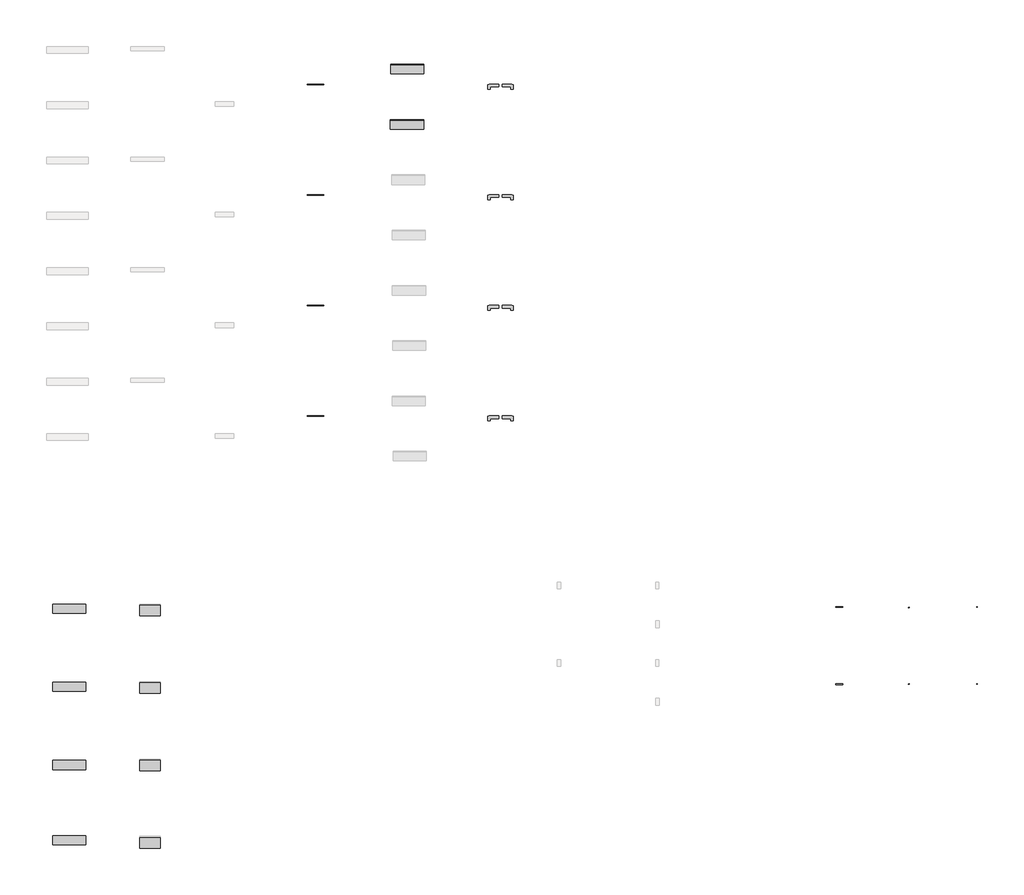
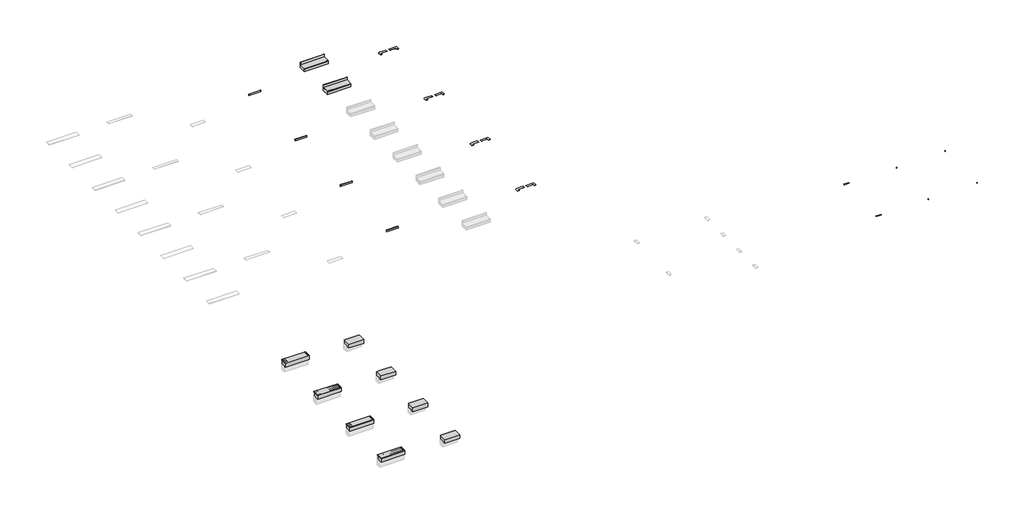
# One storey, part 2 of 2: 30 proxies, 2 stair flights.
"""IFC4 building model written with IfcOpenShell, lengths in millimetres."""

import ifcopenshell
import ifcopenshell.guid

model = None  # the IFC model being written
_history = None  # IfcOwnerHistory: only IFC2X3 demands one
_inside = {}  # id of a spatial element -> (the spatial element, [elements in it])
_under = {}  # id of a project, library or spatial element -> (it, [spatial elements below it])
_declared = {}  # id of a project -> (the project, [libraries it declares])
_typed = {}  # id of a type object -> (the type object, [elements of that type])
_made_of = {}  # id of a material, layer set ... -> (it, [elements and type objects made of it])


def new_model(schema):
    """Start an empty IFC model of exactly this schema.

    Asked for "IFC4X3", IfcOpenShell would pick the latest addendum, in which some entities
    have other attributes; the version numbers below select the first issue.
    IFC2X3 requires an IfcOwnerHistory on every rooted entity: one is made here for all.
    """
    global model, _history
    if schema == "IFC4X3":
        model = ifcopenshell.file(schema_version=(4, 3, 0, 0))
    else:
        model = ifcopenshell.file(schema=schema)
    _inside.clear()
    _under.clear()
    _declared.clear()
    _typed.clear()
    _made_of.clear()
    _history = None
    if model.schema == "IFC2X3":
        org = make("IfcOrganization", Name="unknown")
        user = make(
            "IfcPersonAndOrganization",
            ThePerson=make("IfcPerson", FamilyName="unknown"),
            TheOrganization=org,
        )
        app = make(
            "IfcApplication",
            ApplicationDeveloper=org,
            Version="unknown",
            ApplicationFullName="unknown",
            ApplicationIdentifier="unknown",
        )
        _history = make(
            "IfcOwnerHistory",
            OwningUser=user,
            OwningApplication=app,
            ChangeAction="ADDED",
            CreationDate=0,
        )
    return model


def make(cls, **values):
    """One entity of the class cls with the attributes given. An attribute that is None is left unset."""
    return model.create_entity(
        cls, **{name: value for name, value in values.items() if value is not None}
    )


def rooted(cls, **values):
    """An entity with a GlobalId (a new one), such as an element, a storey or a relation."""
    return make(cls, GlobalId=ifcopenshell.guid.new(), OwnerHistory=_history, **values)


def si_unit(unit_type, name, prefix=None):
    """IfcSIUnit, for example si_unit("LENGTHUNIT", "METRE", prefix="MILLI")."""
    return make("IfcSIUnit", UnitType=unit_type, Prefix=prefix, Name=name)


def assignment(units):
    """IfcUnitAssignment: the units of a project."""
    return None if units is None else make("IfcUnitAssignment", Units=units)


def point(xyz):
    """IfcCartesianPoint."""
    return None if xyz is None else make("IfcCartesianPoint", Coordinates=xyz)


def direction(xyz):
    """IfcDirection."""
    return None if xyz is None else make("IfcDirection", DirectionRatios=xyz)


def frame(location, z_axis=None, x_axis=None):
    """IfcAxis2Placement3D, a coordinate frame: its origin and axes. An axis left out is left unset."""
    return make(
        "IfcAxis2Placement3D",
        Location=point(location),
        Axis=direction(z_axis),
        RefDirection=direction(x_axis),
    )


def frame_2d(location, x_axis=None):
    """IfcAxis2Placement2D, a coordinate frame in the plane: its origin and x axis."""
    return make(
        "IfcAxis2Placement2D", Location=point(location), RefDirection=direction(x_axis)
    )


def origin():
    """The frame at (0, 0, 0) with its axes left unset."""
    return frame((0.0, 0.0, 0.0))


def origin_with_axes():
    """The frame at (0, 0, 0) with the z axis (0, 0, 1) and the x axis (1, 0, 0) written out."""
    return frame((0.0, 0.0, 0.0), z_axis=(0.0, 0.0, 1.0), x_axis=(1.0, 0.0, 0.0))


def place(relative_to, where):
    """IfcLocalPlacement: puts the frame where relative to a parent placement (None: the world)."""
    return make(
        "IfcLocalPlacement", PlacementRelTo=relative_to, RelativePlacement=where
    )


def context(
    kind, dimensions, precision=None, world=None, true_north=None, identifier=None
):
    """IfcGeometricRepresentationContext, for example the 3D "Model" context."""
    return make(
        "IfcGeometricRepresentationContext",
        ContextIdentifier=identifier,
        ContextType=kind,
        CoordinateSpaceDimension=dimensions,
        Precision=precision,
        WorldCoordinateSystem=world,
        TrueNorth=true_north,
    )


def project(units=None, contexts=None):
    """IfcProject with its units and contexts."""
    return rooted(
        "IfcProject",
        Name="project",
        RepresentationContexts=contexts,
        UnitsInContext=assignment(units),
    )


def spatial(cls, under=None, at=None, **own):
    """A site, building, storey or space (cls), placed at a placement, below another one or the project."""
    s = rooted(cls, ObjectPlacement=at, **own)
    if under is not None:
        _under.setdefault(under.id(), (under, []))[1].append(s)
    return s


def polyline(points):
    """IfcPolyline through the points."""
    return make("IfcPolyline", Points=[point(p) for p in points])


def circle_curve(where, radius):
    """IfcCircle in the frame where."""
    return make("IfcCircle", Position=where, Radius=radius)


def ellipse_curve(where, semi_axis1, semi_axis2):
    """IfcEllipse in the frame where."""
    return make(
        "IfcEllipse", Position=where, SemiAxis1=semi_axis1, SemiAxis2=semi_axis2
    )


def trimmed(basis, trim1, trim2, sense, master):
    """IfcTrimmedCurve: the piece of a basis curve between two trims."""
    return make(
        "IfcTrimmedCurve",
        BasisCurve=basis,
        Trim1=trim1,
        Trim2=trim2,
        SenseAgreement=sense,
        MasterRepresentation=master,
    )


def segment(curve, same_sense, transition):
    """IfcCompositeCurveSegment."""
    return make(
        "IfcCompositeCurveSegment",
        Transition=transition,
        SameSense=same_sense,
        ParentCurve=curve,
    )


def composite_curve(segments, self_intersect=None):
    """IfcCompositeCurve: segments joined end to end."""
    return make("IfcCompositeCurve", Segments=segments, SelfIntersect=self_intersect)


def outline(outer, holes=None, kind="AREA"):
    """IfcArbitraryClosedProfileDef: a profile drawn as a closed curve; with holes, ...WithVoids."""
    if holes is None:
        return make("IfcArbitraryClosedProfileDef", ProfileType=kind, OuterCurve=outer)
    return make(
        "IfcArbitraryProfileDefWithVoids",
        ProfileType=kind,
        OuterCurve=outer,
        InnerCurves=holes,
    )


def extrude(swept, where, along, depth):
    """IfcExtrudedAreaSolid: the profile swept, set in the frame where, extruded along a direction by depth."""
    return make(
        "IfcExtrudedAreaSolid",
        SweptArea=swept,
        Position=where,
        ExtrudedDirection=direction(along),
        Depth=depth,
    )


def faces_of(points, faces, orient=None, outer=None):
    """IfcFace entities. A face is a list of loops; a loop is a list of indices into points, from 0.

    orient and outer hold one flag for each loop. By default every Orientation is true, the
    first loop of a face is its IfcFaceOuterBound and the others are IfcFaceBound.
    """
    made = []
    for i, loops in enumerate(faces):
        bounds = []
        for j, loop in enumerate(loops):
            is_outer = j == 0 if outer is None else outer[i][j]
            bounds.append(
                make(
                    "IfcFaceOuterBound" if is_outer else "IfcFaceBound",
                    Bound=make("IfcPolyLoop", Polygon=[points[k] for k in loop]),
                    Orientation=True if orient is None else orient[i][j],
                )
            )
        made.append(make("IfcFace", Bounds=bounds))
    return made


def faceted_brep(points, faces, orient=None, outer=None, voids=None):
    """IfcFacetedBrep: a solid bounded by flat faces; with voids (closed shells), ...WithVoids."""
    shared = [point(p) for p in points]
    hull = make("IfcClosedShell", CfsFaces=faces_of(shared, faces, orient, outer))
    if voids is None:
        return make("IfcFacetedBrep", Outer=hull)
    return make(
        "IfcFacetedBrepWithVoids",
        Outer=hull,
        Voids=[
            make(cls, CfsFaces=faces_of(shared, fs, o, b)) for cls, fs, o, b in voids
        ],
    )


def shape(context_of_items, identifier, shape_type, items):
    """IfcShapeRepresentation: the items that make up one representation, for example the "Body"."""
    return make(
        "IfcShapeRepresentation",
        ContextOfItems=context_of_items,
        RepresentationIdentifier=identifier,
        RepresentationType=shape_type,
        Items=items,
    )


def source(mapping_origin, context_of_items, identifier, shape_type, items):
    """IfcRepresentationMap: a shape defined once, which mapped items show again and again."""
    return make(
        "IfcRepresentationMap",
        MappingOrigin=mapping_origin,
        MappedRepresentation=shape(context_of_items, identifier, shape_type, items),
    )


def transform(
    local_origin,
    x_axis=None,
    y_axis=None,
    z_axis=None,
    scale=None,
    scale2=None,
    scale3=None,
    uniform=True,
):
    """IfcCartesianTransformationOperator3D, or its non-uniform kind. x_axis, y_axis, z_axis: its Axis1, 2, 3."""
    if uniform:
        return make(
            "IfcCartesianTransformationOperator3D",
            Axis1=direction(x_axis),
            Axis2=direction(y_axis),
            LocalOrigin=point(local_origin),
            Scale=scale,
            Axis3=direction(z_axis),
        )
    return make(
        "IfcCartesianTransformationOperator3DnonUniform",
        Axis1=direction(x_axis),
        Axis2=direction(y_axis),
        LocalOrigin=point(local_origin),
        Scale=scale,
        Axis3=direction(z_axis),
        Scale2=scale2,
        Scale3=scale3,
    )


def mapped(mapping_source, mapping_target):
    """IfcMappedItem: shows the shape of a source again, moved by a transform."""
    return make(
        "IfcMappedItem", MappingSource=mapping_source, MappingTarget=mapping_target
    )


def made_of(thing, what):
    """Note that an element or type object is made of a material, layer set ...; save() writes the relation."""
    if what is not None:
        _made_of.setdefault(what.id(), (what, []))[1].append(thing)
    return thing


def element(
    cls,
    number,
    at=None,
    inside=None,
    cuts=None,
    type_object=None,
    material=None,
    context=None,
    identifier="Body",
    shape_type=None,
    held_by="IfcProductDefinitionShape",
    body=None,
    shapes=None,
    **own,
):
    """One element of the class cls, such as IfcWall. Its Tag is "e" and its number.

    at: its placement. inside: the storey or other place that contains it. cuts: it is an
    opening in that element (IfcRelVoidsElement). A single representation is given by context,
    identifier, shape_type and body (its items); several are given by shapes. held_by: the class
    of the entity that holds the representations. save() writes the other relations.
    """
    e = rooted(cls, Tag="e%d" % number, ObjectPlacement=at, **own)
    if body is not None:
        shapes = [shape(context, identifier, shape_type, body)]
    if shapes is not None:
        e.Representation = make(held_by, Representations=shapes)
    if inside is not None:
        _inside.setdefault(inside.id(), (inside, []))[1].append(e)
    if cuts is not None:
        rooted(
            "IfcRelVoidsElement", RelatingBuildingElement=cuts, RelatedOpeningElement=e
        )
    if type_object is not None:
        _typed.setdefault(type_object.id(), (type_object, []))[1].append(e)
    return made_of(e, material)


def aggregate(whole, parts):
    """IfcRelAggregates: a whole, such as a stair, and the parts it consists of."""
    return rooted("IfcRelAggregates", RelatingObject=whole, RelatedObjects=parts)


def save(model, path):
    """Write the relations noted so far, then the file.

    IfcRelAggregates (storeys below a building ...), IfcRelContainedInSpatialStructure (elements
    in a storey), IfcRelDefinesByType, IfcRelAssociatesMaterial and IfcRelDeclares: one each for
    every whole, place, type object, material and project.
    """
    for whole, parts in _under.values():
        aggregate(whole, parts)
    for where, things in _inside.values():
        rooted(
            "IfcRelContainedInSpatialStructure",
            RelatedElements=things,
            RelatingStructure=where,
        )
    for kind, things in _typed.values():
        rooted("IfcRelDefinesByType", RelatedObjects=things, RelatingType=kind)
    for what, things in _made_of.values():
        rooted("IfcRelAssociatesMaterial", RelatedObjects=things, RelatingMaterial=what)
    for by, libraries in _declared.values():
        rooted("IfcRelDeclares", RelatingContext=by, RelatedDefinitions=libraries)
    model.write(path)


def plane_surface(at):
    """IfcPlane: the flat surface through the origin of the frame at, square to its z axis."""
    return make("IfcPlane", Position=at)


def revolved_surface(curve, axis_point, axis_direction):
    """IfcSurfaceOfRevolution: the curve turned about the line through axis_point along axis_direction."""
    return make(
        "IfcSurfaceOfRevolution",
        SweptCurve=make("IfcArbitraryOpenProfileDef", ProfileType="CURVE", Curve=curve),
        AxisPosition=make("IfcAxis1Placement", Location=point(axis_point), Axis=direction(axis_direction)),
    )


def advanced_brep(points, edges, surfaces, faces):
    """IfcAdvancedBrep: a solid bounded by faces that lie on surfaces and meet in shared edges.

    An edge is (start, end): straight between two places in points (the first is 0);
    or (start, end, curve); or (start, end, curve, False) where it runs against its curve.
    A face is (place in surfaces, loops), or (place, loops, False) where it looks against
    its surface's normal. A loop lists edges by number (the first is 1), with a minus sign
    where the edge is run from its end to its start. The first loop is the outer one.
    """
    corners = [point(p) for p in points]
    vertices = [make("IfcVertexPoint", VertexGeometry=c) for c in corners]
    made = []
    for start, end, *more in edges:
        made.append(
            make(
                "IfcEdgeCurve",
                EdgeStart=vertices[start],
                EdgeEnd=vertices[end],
                EdgeGeometry=more[0] if more else make("IfcPolyline", Points=[corners[start], corners[end]]),
                SameSense=more[1] if len(more) > 1 else True,
            )
        )
    hull = []
    for where, loops, *sense in faces:
        bounds = []
        for j, loop in enumerate(loops):
            ring = [make("IfcOrientedEdge", EdgeElement=made[abs(k) - 1], Orientation=k > 0) for k in loop]
            bounds.append(
                make(
                    "IfcFaceOuterBound" if j == 0 else "IfcFaceBound",
                    Bound=make("IfcEdgeLoop", EdgeList=ring),
                    Orientation=True,
                )
            )
        hull.append(make("IfcAdvancedFace", Bounds=bounds, FaceSurface=surfaces[where], SameSense=sense[0] if sense else True))
    return make("IfcAdvancedBrep", Outer=make("IfcClosedShell", CfsFaces=hull))


def generic_models_5bab8272(model_context):
    return source(origin(), model_context, "Body", "SweptSolid", [
        extrude(outline(composite_curve([segment(polyline([(300.0, 0.0), (0.0, 0.0), (0.0, -80.0), (-100.0, -80.0), (-100.0, 42.0)]), True, "CONTINUOUS"), segment(trimmed(circle_curve(frame_2d((-42.0, 42.0)), 58.0), [point((-100.0, 42.0))], [point((-42.0, 100.0))], False, "CARTESIAN"), True, "CONTINUOUS"), segment(polyline([(-42.0, 100.0), (300.0, 100.0), (300.0, 0.0)]), True, "CONTINUOUS")], self_intersect=False)), origin_with_axes(), (0.0, 0.0, 1.0), 10.0),
    ])


def generic_models_6290b49e(model_context):
    return source(origin(), model_context, "Body", "SweptSolid", [
        extrude(outline(composite_curve([segment(polyline([(300.0, 0.0), (300.0, -100.0), (-42.0, -100.0)]), True, "CONTINUOUS"), segment(trimmed(circle_curve(frame_2d((-42.0, -42.0)), 58.0), [point((-42.0, -100.0))], [point((-100.0, -42.0))], False, "CARTESIAN"), True, "CONTINUOUS"), segment(polyline([(-100.0, -42.0), (-100.0, 80.0), (0.0, 80.0), (0.0, 0.0), (300.0, 0.0)]), True, "CONTINUOUS")], self_intersect=False)), origin_with_axes(), (0.0, 0.0, 1.0), 10.0),
    ])


def generic_models_b0f7cce5(model_context):
    return source(origin(), model_context, "Body", "AdvancedBrep", [
        advanced_brep(
        [(0.0, -23.9, 23.9), (23.9, 0.0, 23.9), (23.9, 6.4, 23.9), (-6.4, -23.9, 23.9), (23.9, -23.9, -6.4), (23.9, -23.9, 0.0)],
        [
            (0, 1, circle_curve(frame((23.9, -23.9, 23.9), z_axis=(0.0, 0.0, -1.0), x_axis=(0.0, -1.0, 0.0)), 23.9)),
            (1, 2),
            (2, 3, circle_curve(frame((23.9, -23.9, 23.9), z_axis=(0.0, 0.0, 1.0), x_axis=(0.0, -1.0, 0.0)), 30.3)),
            (3, 0),
            (3, 4, circle_curve(frame((23.9, -23.9, 23.9), z_axis=(0.0, -1.0, 0.0), x_axis=(0.0, 0.0, 1.0)), 30.3)),
            (4, 5),
            (5, 0, circle_curve(frame((23.9, -23.9, 23.9), z_axis=(0.0, 1.0, 0.0), x_axis=(0.0, 0.0, 1.0)), 23.9)),
            (5, 1, circle_curve(frame((23.9, -23.9, 23.9), z_axis=(1.0, 0.0, 0.0), x_axis=(0.0, 1.0, 0.0)), 23.9)),
            (4, 2, circle_curve(frame((23.9, -23.9, 23.9), z_axis=(1.0, 0.0, 0.0), x_axis=(0.0, 1.0, 0.0)), 30.3)),
        ],
        [
            plane_surface(frame((-0.3, -23.9, 23.9), z_axis=(0.0, 0.0, 1.0), x_axis=(0.0, 1.0, 0.0))),
            plane_surface(frame((-0.3, -23.9, 23.9), z_axis=(0.0, -1.0, 0.0), x_axis=(0.0, 0.0, -1.0))),
            revolved_surface(trimmed(ellipse_curve(frame((23.9, -23.9, 23.9), z_axis=(0.0, 0.0, -1.0), x_axis=(0.0, -1.0, 0.0)), 23.9, 23.9), [point((0.0, -23.9, 23.9))], [point((23.9, 0.0, 23.9))], True, "CARTESIAN"), (-0.3, -23.9, 23.9), (-1.0, 0.0, 0.0)),
            plane_surface(frame((23.9, -23.9, 23.9), z_axis=(1.0, 0.0, 0.0), x_axis=(0.0, 1.0, 0.0))),
            revolved_surface(trimmed(ellipse_curve(frame((23.9, -23.9, 23.9), z_axis=(0.0, 0.0, 1.0), x_axis=(0.0, -1.0, 0.0)), 30.3, 30.3), [point((23.9, 6.4, 23.9))], [point((-6.4, -23.9, 23.9))], True, "CARTESIAN"), (-0.3, -23.9, 23.9), (-1.0, 0.0, 0.0)),
        ],
        [
            (0, [[1, 2, 3, 4]]),
            (1, [[5, 6, 7, -4]]),
            (2, [[8, -1, -7]]),
            (3, [[9, -2, -8, -6]]),
            (4, [[-3, -9, -5]]),
        ],
    ),
    ])


def generic_models_d871d5da(model_context):
    return source(origin(), model_context, "Body", "AdvancedBrep", [
        advanced_brep(
        [(-23.9, 6.4, -23.9), (-6.4, 23.9, -23.9), (0.0, 23.9, -23.9), (-23.9, 0.0, -23.9), (-23.9, 23.9, 0.0), (-23.9, 23.9, -6.4)],
        [
            (0, 1, circle_curve(frame((-23.9, 23.9, -23.9), z_axis=(0.0, 0.0, 1.0), x_axis=(0.0, 1.0, 0.0)), 17.5)),
            (1, 2),
            (2, 3, circle_curve(frame((-23.9, 23.9, -23.9), z_axis=(0.0, 0.0, -1.0), x_axis=(0.0, 1.0, 0.0)), 23.9)),
            (3, 0),
            (3, 4, circle_curve(frame((-23.9, 23.9, -23.9), z_axis=(-1.0, 0.0, 0.0), x_axis=(0.0, 1.0, 0.0)), 23.9)),
            (4, 5),
            (5, 0, circle_curve(frame((-23.9, 23.9, -23.9), z_axis=(1.0, 0.0, 0.0), x_axis=(0.0, 1.0, 0.0)), 17.5)),
            (2, 4, circle_curve(frame((-23.9, 23.9, -23.9), z_axis=(0.0, -1.0, 0.0), x_axis=(1.0, 0.0, 0.0)), 23.9)),
            (1, 5, circle_curve(frame((-23.9, 23.9, -23.9), z_axis=(0.0, -1.0, 0.0), x_axis=(1.0, 0.0, 0.0)), 17.5)),
        ],
        [
            plane_surface(frame((-23.9, -10.6, -23.9), z_axis=(0.0, 0.0, -1.0), x_axis=(1.0, 0.0, 0.0))),
            plane_surface(frame((-23.9, -10.6, -23.9), z_axis=(-1.0, 0.0, 0.0), x_axis=(0.0, 0.0, 1.0))),
            revolved_surface(trimmed(ellipse_curve(frame((-23.9, 23.9, -23.9), z_axis=(0.0, 0.0, 1.0), x_axis=(0.0, 1.0, 0.0)), 23.9, 23.9), [point((-23.9, 0.0, -23.9))], [point((0.0, 23.9, -23.9))], True, "CARTESIAN"), (-23.9, -10.6, -23.9), (0.0, 1.0, 0.0)),
            plane_surface(frame((-23.9, 23.9, -23.9), z_axis=(0.0, 1.0, 0.0), x_axis=(1.0, 0.0, 0.0))),
            revolved_surface(trimmed(ellipse_curve(frame((-23.9, 23.9, -23.9), z_axis=(0.0, 0.0, -1.0), x_axis=(0.0, 1.0, 0.0)), 17.5, 17.5), [point((-6.4, 23.9, -23.9))], [point((-23.9, 6.4, -23.9))], True, "CARTESIAN"), (-23.9, -10.6, -23.9), (0.0, 1.0, 0.0)),
        ],
        [
            (0, [[1, 2, 3, 4]]),
            (1, [[5, 6, 7, -4]]),
            (2, [[-3, 8, -5]]),
            (3, [[-8, -2, 9, -6]]),
            (4, [[-9, -1, -7]]),
        ],
    ),
    ])


def generic_models_11448745(model_context):
    return source(origin(), model_context, "Body", "SweptSolid", [
        extrude(outline(composite_curve([segment(trimmed(circle_curve(frame_2d((23.9, -23.9)), 23.9), [point((0.0, -23.9))], [point((23.9, 0.0))], False, "CARTESIAN"), True, "CONTINUOUS"), segment(polyline([(23.9, 0.0), (23.9, -6.4)]), True, "CONTINUOUS"), segment(trimmed(circle_curve(frame_2d((23.9, -23.9)), 17.5), [point((23.9, -6.4))], [point((6.4, -23.9))], True, "CARTESIAN"), True, "CONTINUOUS"), segment(polyline([(6.4, -23.9), (0.0, -23.9)]), True, "CONTINUOUS")], self_intersect=False)), frame((0.0, 0.0, 0.0), z_axis=(1.0, 0.0, 0.0), x_axis=(0.0, 1.0, 0.0)), (0.0, 0.0, 1.0), 250.0),
    ])


model = new_model("IFC4")

# Units and contexts
model_context = context("Model", 3, world=origin())
ifc_project = project(units=[si_unit("LENGTHUNIT", "METRE", prefix="MILLI")], contexts=[model_context])

# Site, building, storey
site = spatial("IfcSite", under=ifc_project)
building = spatial("IfcBuilding", under=site)
storey = spatial("IfcBuildingStorey", under=building, Name="EXAGRES_Serie YOHO_Catálogo", Elevation=5000.0)

# Proxies
placement = place(None, origin())
element("IfcBuildingElementProxy", 1, Name="Exagres_Yoho_Maple_Rodapié_9x60", ObjectType="Exagres_Yoho_Maple_Rodapié_9x60", at=placement, inside=storey, context=model_context, shape_type="SweptSolid", body=[
    extrude(outline(polyline([(-576.1098151, 5090.0), (-576.1098151, 5000.0), (-591.1098151, 5000.0), (-591.1098151, 5085.0), (-586.1098151, 5090.0), (-576.1098151, 5090.0)])), frame((8193.632671, 0.0, 0.0), z_axis=(1.0, 0.0, 0.0), x_axis=(0.0, 1.0, 0.0)), (0.0, 0.0, 1.0), 600.0),
])
element("IfcBuildingElementProxy", 2, Name="Wall Sweeps", at=placement, inside=storey, context=model_context, shape_type="SweptSolid", body=[
    extrude(outline(polyline([(-19403.852278, 5500.0), (-19403.852278, 5508.0), (-19402.852278, 5508.0), (-19402.852278, 5514.0), (-19403.852278, 5514.0), (-19403.852278, 5521.0), (-19410.852278, 5521.0), (-19410.852278, 5522.0), (-19414.852278, 5522.0), (-19414.852278, 5521.0), (-19420.852278, 5521.0), (-19420.852278, 5522.0), (-19424.852278, 5522.0), (-19424.852278, 5521.0), (-19430.852278, 5521.0), (-19430.852278, 5522.0), (-19434.852278, 5522.0), (-19434.852278, 5521.0), (-19440.852278, 5521.0), (-19440.852278, 5522.0), (-19444.852278, 5522.0), (-19444.852278, 5521.0), (-19450.852278, 5521.0), (-19450.852278, 5522.0), (-19454.852278, 5522.0), (-19454.852278, 5521.0), (-19460.852278, 5521.0), (-19460.852278, 5522.0), (-19464.852278, 5522.0), (-19464.852278, 5521.0), (-19470.852278, 5521.0), (-19470.852278, 5522.0), (-19474.852278, 5522.0), (-19474.852278, 5521.0), (-19480.852278, 5521.0), (-19480.852278, 5522.0), (-19484.852278, 5522.0), (-19484.852278, 5521.0), (-19490.852278, 5521.0), (-19490.852278, 5522.0), (-19494.852278, 5522.0), (-19494.852278, 5521.0), (-19500.852278, 5521.0), (-19500.852278, 5522.0), (-19504.852278, 5522.0), (-19504.852278, 5521.0), (-19510.852278, 5521.0), (-19510.852278, 5522.0), (-19514.852278, 5522.0), (-19514.852278, 5521.0), (-19520.852278, 5521.0), (-19520.852278, 5522.0), (-19524.852278, 5522.0), (-19524.852278, 5521.0), (-19530.852278, 5521.0), (-19530.852278, 5522.0), (-19534.852278, 5522.0), (-19534.852278, 5521.0), (-19540.852278, 5521.0), (-19540.852278, 5522.0), (-19544.852278, 5522.0), (-19544.852278, 5521.0), (-19550.852278, 5521.0), (-19550.852278, 5522.0), (-19554.852278, 5522.0), (-19554.852278, 5521.0), (-19560.852278, 5521.0), (-19560.852278, 5522.0), (-19564.852278, 5522.0), (-19564.852278, 5521.0), (-19570.852278, 5521.0), (-19570.852278, 5522.0), (-19574.852278, 5522.0), (-19574.852278, 5521.0), (-19580.852278, 5521.0), (-19580.852278, 5522.0), (-19584.852278, 5522.0), (-19584.852278, 5521.0), (-19590.852278, 5521.0), (-19590.852278, 5522.0), (-19594.852278, 5522.0), (-19594.852278, 5521.0), (-19600.852278, 5521.0), (-19600.852278, 5522.0), (-19604.852278, 5522.0), (-19604.852278, 5521.0), (-19610.852278, 5521.0), (-19610.852278, 5522.0), (-19614.852278, 5522.0), (-19614.852278, 5521.0), (-19620.852278, 5521.0), (-19620.852278, 5522.0), (-19624.852278, 5522.0), (-19624.852278, 5521.0), (-19630.852278, 5521.0), (-19630.852278, 5522.0), (-19634.852278, 5522.0), (-19634.852278, 5521.0), (-19640.852278, 5521.0), (-19640.852278, 5522.0), (-19644.852278, 5522.0), (-19644.852278, 5521.0), (-19650.852278, 5521.0), (-19650.852278, 5522.0), (-19654.852278, 5522.0), (-19654.852278, 5521.0), (-19660.852278, 5521.0), (-19660.852278, 5522.0), (-19664.852278, 5522.0), (-19664.852278, 5521.0), (-19670.852278, 5521.0), (-19670.852278, 5522.0), (-19674.852278, 5522.0), (-19674.852278, 5521.0), (-19680.852278, 5521.0), (-19680.852278, 5522.0), (-19684.852278, 5522.0), (-19684.852278, 5521.0), (-19690.852278, 5521.0), (-19690.852278, 5522.0), (-19694.852278, 5522.0), (-19694.852278, 5521.0), (-19700.852278, 5521.0), (-19700.852278, 5522.0), (-19704.852278, 5522.0), (-19704.852278, 5521.0), (-19710.852278, 5521.0), (-19710.852278, 5522.0), (-19714.852278, 5522.0), (-19714.852278, 5521.0), (-19720.852278, 5521.0), (-19720.852278, 5533.0), (-19390.852278, 5533.0), (-19390.852278, 5500.0), (-19403.852278, 5500.0)])), frame((-1012.155725, 0.0, 0.0), z_axis=(1.0, 0.0, 0.0), x_axis=(0.0, 1.0, 0.0)), (0.0, 0.0, 1.0), 1202.0),
])
element("IfcBuildingElementProxy", 3, Name="Wall Sweeps", at=placement, inside=storey, context=model_context, shape_type="Brep", body=[
    faceted_brep([(-1012.155725, -19710.852278, 5318.74), (-1012.155725, -19710.852278, 5518.74), (-1012.155725, -19405.852278, 5518.74), (-1012.155725, -19405.852278, 5500.0), (-1012.155725, -19405.852278, 5318.74), (-1012.155725, -19615.852278, 5318.74), (189.844275, -19710.852278, 5318.74), (189.844275, -19615.852278, 5318.74), (189.844275, -19405.852278, 5318.74), (189.844275, -19405.852278, 5500.0), (189.844275, -19405.852278, 5518.74), (189.844275, -19710.852278, 5518.74)], [[[0, 1, 2, 3, 4, 5]], [[6, 7, 8, 9, 10, 11]], [[0, 5, 4, 8, 7, 6]], [[4, 3, 2, 10, 9, 8]], [[2, 1, 11, 10]], [[1, 0, 6, 11]]]),
])
element("IfcBuildingElementProxy", 4, Name="Wall Sweeps", at=placement, inside=storey, context=model_context, shape_type="Brep", body=[
    faceted_brep([(2137.844275, -19815.852278, 5300.0), (2137.844275, -19815.852278, 5500.0), (2137.844275, -19415.852278, 5500.0), (2137.844275, -19415.852278, 5300.0), (2137.844275, -19615.852278, 5300.0), (2887.844275, -19815.852278, 5300.0), (2887.844275, -19615.852278, 5300.0), (2887.844275, -19415.852278, 5300.0), (2887.844275, -19415.852278, 5500.0), (2887.844275, -19815.852278, 5500.0)], [[[0, 1, 2, 3, 4]], [[5, 6, 7, 8, 9]], [[0, 4, 3, 7, 6, 5]], [[3, 2, 8, 7]], [[2, 1, 9, 8]], [[1, 0, 5, 9]]]),
])
element("IfcBuildingElementProxy", 5, Name="Wall Sweeps", at=placement, inside=storey, context=model_context, shape_type="SweptSolid", body=[
    extrude(outline(polyline([(-22228.852278, 5500.0), (-22228.852278, 5508.0), (-22227.852278, 5508.0), (-22227.852278, 5514.0), (-22228.852278, 5514.0), (-22228.852278, 5521.0), (-22235.852278, 5521.0), (-22235.852278, 5522.0), (-22239.852278, 5522.0), (-22239.852278, 5521.0), (-22245.852278, 5521.0), (-22245.852278, 5522.0), (-22249.852278, 5522.0), (-22249.852278, 5521.0), (-22255.852278, 5521.0), (-22255.852278, 5522.0), (-22259.852278, 5522.0), (-22259.852278, 5521.0), (-22265.852278, 5521.0), (-22265.852278, 5522.0), (-22269.852278, 5522.0), (-22269.852278, 5521.0), (-22275.852278, 5521.0), (-22275.852278, 5522.0), (-22279.852278, 5522.0), (-22279.852278, 5521.0), (-22285.852278, 5521.0), (-22285.852278, 5522.0), (-22289.852278, 5522.0), (-22289.852278, 5521.0), (-22295.852278, 5521.0), (-22295.852278, 5522.0), (-22299.852278, 5522.0), (-22299.852278, 5521.0), (-22305.852278, 5521.0), (-22305.852278, 5522.0), (-22309.852278, 5522.0), (-22309.852278, 5521.0), (-22315.852278, 5521.0), (-22315.852278, 5522.0), (-22319.852278, 5522.0), (-22319.852278, 5521.0), (-22325.852278, 5521.0), (-22325.852278, 5522.0), (-22329.852278, 5522.0), (-22329.852278, 5521.0), (-22335.852278, 5521.0), (-22335.852278, 5522.0), (-22339.852278, 5522.0), (-22339.852278, 5521.0), (-22345.852278, 5521.0), (-22345.852278, 5522.0), (-22349.852278, 5522.0), (-22349.852278, 5521.0), (-22355.852278, 5521.0), (-22355.852278, 5522.0), (-22359.852278, 5522.0), (-22359.852278, 5521.0), (-22365.852278, 5521.0), (-22365.852278, 5522.0), (-22369.852278, 5522.0), (-22369.852278, 5521.0), (-22375.852278, 5521.0), (-22375.852278, 5522.0), (-22379.852278, 5522.0), (-22379.852278, 5521.0), (-22385.852278, 5521.0), (-22385.852278, 5522.0), (-22389.852278, 5522.0), (-22389.852278, 5521.0), (-22395.852278, 5521.0), (-22395.852278, 5522.0), (-22399.852278, 5522.0), (-22399.852278, 5521.0), (-22405.852278, 5521.0), (-22405.852278, 5522.0), (-22409.852278, 5522.0), (-22409.852278, 5521.0), (-22415.852278, 5521.0), (-22415.852278, 5522.0), (-22419.852278, 5522.0), (-22419.852278, 5521.0), (-22425.852278, 5521.0), (-22425.852278, 5522.0), (-22429.852278, 5522.0), (-22429.852278, 5521.0), (-22435.852278, 5521.0), (-22435.852278, 5522.0), (-22439.852278, 5522.0), (-22439.852278, 5521.0), (-22445.852278, 5521.0), (-22445.852278, 5522.0), (-22449.852278, 5522.0), (-22449.852278, 5521.0), (-22455.852278, 5521.0), (-22455.852278, 5522.0), (-22459.852278, 5522.0), (-22459.852278, 5521.0), (-22465.852278, 5521.0), (-22465.852278, 5522.0), (-22469.852278, 5522.0), (-22469.852278, 5521.0), (-22475.852278, 5521.0), (-22475.852278, 5522.0), (-22479.852278, 5522.0), (-22479.852278, 5521.0), (-22485.852278, 5521.0), (-22485.852278, 5522.0), (-22489.852278, 5522.0), (-22489.852278, 5521.0), (-22495.852278, 5521.0), (-22495.852278, 5522.0), (-22499.852278, 5522.0), (-22499.852278, 5521.0), (-22505.852278, 5521.0), (-22505.852278, 5522.0), (-22509.852278, 5522.0), (-22509.852278, 5521.0), (-22515.852278, 5521.0), (-22515.852278, 5522.0), (-22519.852278, 5522.0), (-22519.852278, 5521.0), (-22525.852278, 5521.0), (-22525.852278, 5522.0), (-22529.852278, 5522.0), (-22529.852278, 5521.0), (-22535.852278, 5521.0), (-22535.852278, 5522.0), (-22539.852278, 5522.0), (-22539.852278, 5521.0), (-22545.852278, 5521.0), (-22545.852278, 5533.0), (-22215.852278, 5533.0), (-22215.852278, 5500.0), (-22228.852278, 5500.0)])), frame((-1012.155725, 0.0, 0.0), z_axis=(1.0, 0.0, 0.0), x_axis=(0.0, 1.0, 0.0)), (0.0, 0.0, 1.0), 1202.0),
])
element("IfcBuildingElementProxy", 6, Name="Wall Sweeps", at=placement, inside=storey, context=model_context, shape_type="Brep", body=[
    faceted_brep([(-1012.155725, -22535.852278, 5318.74), (-1012.155725, -22535.852278, 5518.74), (-1012.155725, -22230.852278, 5518.74), (-1012.155725, -22230.852278, 5500.0), (-1012.155725, -22230.852278, 5318.74), (-1012.155725, -22440.852278, 5318.74), (189.844275, -22535.852278, 5318.74), (189.844275, -22440.852278, 5318.74), (189.844275, -22230.852278, 5318.74), (189.844275, -22230.852278, 5500.0), (189.844275, -22230.852278, 5518.74), (189.844275, -22535.852278, 5518.74)], [[[0, 1, 2, 3, 4, 5]], [[6, 7, 8, 9, 10, 11]], [[0, 5, 4, 8, 7, 6]], [[4, 3, 2, 10, 9, 8]], [[2, 1, 11, 10]], [[1, 0, 6, 11]]]),
])
element("IfcBuildingElementProxy", 7, Name="Wall Sweeps", at=placement, inside=storey, context=model_context, shape_type="Brep", body=[
    faceted_brep([(2137.844275, -22615.852278, 5300.0), (2137.844275, -22615.852278, 5500.0), (2137.844275, -22215.852278, 5500.0), (2137.844275, -22215.852278, 5300.0), (2137.844275, -22415.852278, 5300.0), (2887.844275, -22615.852278, 5300.0), (2887.844275, -22415.852278, 5300.0), (2887.844275, -22215.852278, 5300.0), (2887.844275, -22215.852278, 5500.0), (2887.844275, -22615.852278, 5500.0)], [[[0, 1, 2, 3, 4]], [[5, 6, 7, 8, 9]], [[0, 4, 3, 7, 6, 5]], [[3, 2, 8, 7]], [[2, 1, 9, 8]], [[1, 0, 5, 9]]]),
])
element("IfcBuildingElementProxy", 8, Name="Wall Sweeps", at=placement, inside=storey, context=model_context, shape_type="SweptSolid", body=[
    extrude(outline(polyline([(-25053.852278, 5500.0), (-25053.852278, 5508.0), (-25052.852278, 5508.0), (-25052.852278, 5514.0), (-25053.852278, 5514.0), (-25053.852278, 5521.0), (-25060.852278, 5521.0), (-25060.852278, 5522.0), (-25064.852278, 5522.0), (-25064.852278, 5521.0), (-25070.852278, 5521.0), (-25070.852278, 5522.0), (-25074.852278, 5522.0), (-25074.852278, 5521.0), (-25080.852278, 5521.0), (-25080.852278, 5522.0), (-25084.852278, 5522.0), (-25084.852278, 5521.0), (-25090.852278, 5521.0), (-25090.852278, 5522.0), (-25094.852278, 5522.0), (-25094.852278, 5521.0), (-25100.852278, 5521.0), (-25100.852278, 5522.0), (-25104.852278, 5522.0), (-25104.852278, 5521.0), (-25110.852278, 5521.0), (-25110.852278, 5522.0), (-25114.852278, 5522.0), (-25114.852278, 5521.0), (-25120.852278, 5521.0), (-25120.852278, 5522.0), (-25124.852278, 5522.0), (-25124.852278, 5521.0), (-25130.852278, 5521.0), (-25130.852278, 5522.0), (-25134.852278, 5522.0), (-25134.852278, 5521.0), (-25140.852278, 5521.0), (-25140.852278, 5522.0), (-25144.852278, 5522.0), (-25144.852278, 5521.0), (-25150.852278, 5521.0), (-25150.852278, 5522.0), (-25154.852278, 5522.0), (-25154.852278, 5521.0), (-25160.852278, 5521.0), (-25160.852278, 5522.0), (-25164.852278, 5522.0), (-25164.852278, 5521.0), (-25170.852278, 5521.0), (-25170.852278, 5522.0), (-25174.852278, 5522.0), (-25174.852278, 5521.0), (-25180.852278, 5521.0), (-25180.852278, 5522.0), (-25184.852278, 5522.0), (-25184.852278, 5521.0), (-25190.852278, 5521.0), (-25190.852278, 5522.0), (-25194.852278, 5522.0), (-25194.852278, 5521.0), (-25200.852278, 5521.0), (-25200.852278, 5522.0), (-25204.852278, 5522.0), (-25204.852278, 5521.0), (-25210.852278, 5521.0), (-25210.852278, 5522.0), (-25214.852278, 5522.0), (-25214.852278, 5521.0), (-25220.852278, 5521.0), (-25220.852278, 5522.0), (-25224.852278, 5522.0), (-25224.852278, 5521.0), (-25230.852278, 5521.0), (-25230.852278, 5522.0), (-25234.852278, 5522.0), (-25234.852278, 5521.0), (-25240.852278, 5521.0), (-25240.852278, 5522.0), (-25244.852278, 5522.0), (-25244.852278, 5521.0), (-25250.852278, 5521.0), (-25250.852278, 5522.0), (-25254.852278, 5522.0), (-25254.852278, 5521.0), (-25260.852278, 5521.0), (-25260.852278, 5522.0), (-25264.852278, 5522.0), (-25264.852278, 5521.0), (-25270.852278, 5521.0), (-25270.852278, 5522.0), (-25274.852278, 5522.0), (-25274.852278, 5521.0), (-25280.852278, 5521.0), (-25280.852278, 5522.0), (-25284.852278, 5522.0), (-25284.852278, 5521.0), (-25290.852278, 5521.0), (-25290.852278, 5522.0), (-25294.852278, 5522.0), (-25294.852278, 5521.0), (-25300.852278, 5521.0), (-25300.852278, 5522.0), (-25304.852278, 5522.0), (-25304.852278, 5521.0), (-25310.852278, 5521.0), (-25310.852278, 5522.0), (-25314.852278, 5522.0), (-25314.852278, 5521.0), (-25320.852278, 5521.0), (-25320.852278, 5522.0), (-25324.852278, 5522.0), (-25324.852278, 5521.0), (-25330.852278, 5521.0), (-25330.852278, 5522.0), (-25334.852278, 5522.0), (-25334.852278, 5521.0), (-25340.852278, 5521.0), (-25340.852278, 5522.0), (-25344.852278, 5522.0), (-25344.852278, 5521.0), (-25350.852278, 5521.0), (-25350.852278, 5522.0), (-25354.852278, 5522.0), (-25354.852278, 5521.0), (-25360.852278, 5521.0), (-25360.852278, 5522.0), (-25364.852278, 5522.0), (-25364.852278, 5521.0), (-25370.852278, 5521.0), (-25370.852278, 5533.0), (-25040.852278, 5533.0), (-25040.852278, 5500.0), (-25053.852278, 5500.0)])), frame((-1012.155725, 0.0, 0.0), z_axis=(1.0, 0.0, 0.0), x_axis=(0.0, 1.0, 0.0)), (0.0, 0.0, 1.0), 1202.0),
])
element("IfcBuildingElementProxy", 9, Name="Wall Sweeps", at=placement, inside=storey, context=model_context, shape_type="Brep", body=[
    faceted_brep([(-1012.155725, -25360.852278, 5318.74), (-1012.155725, -25360.852278, 5518.74), (-1012.155725, -25055.852278, 5518.74), (-1012.155725, -25055.852278, 5500.0), (-1012.155725, -25055.852278, 5318.74), (-1012.155725, -25265.852278, 5318.74), (189.844275, -25360.852278, 5318.74), (189.844275, -25265.852278, 5318.74), (189.844275, -25055.852278, 5318.74), (189.844275, -25055.852278, 5500.0), (189.844275, -25055.852278, 5518.74), (189.844275, -25360.852278, 5518.74)], [[[0, 1, 2, 3, 4, 5]], [[6, 7, 8, 9, 10, 11]], [[0, 5, 4, 8, 7, 6]], [[4, 3, 2, 10, 9, 8]], [[2, 1, 11, 10]], [[1, 0, 6, 11]]]),
])
element("IfcBuildingElementProxy", 10, Name="Wall Sweeps", at=placement, inside=storey, context=model_context, shape_type="Brep", body=[
    faceted_brep([(2137.844275, -25415.852278, 5300.0), (2137.844275, -25415.852278, 5500.0), (2137.844275, -25015.852278, 5500.0), (2137.844275, -25015.852278, 5300.0), (2137.844275, -25215.852278, 5300.0), (2887.844275, -25415.852278, 5300.0), (2887.844275, -25215.852278, 5300.0), (2887.844275, -25015.852278, 5300.0), (2887.844275, -25015.852278, 5500.0), (2887.844275, -25415.852278, 5500.0)], [[[0, 1, 2, 3, 4]], [[5, 6, 7, 8, 9]], [[0, 4, 3, 7, 6, 5]], [[3, 2, 8, 7]], [[2, 1, 9, 8]], [[1, 0, 5, 9]]]),
])
element("IfcBuildingElementProxy", 11, Name="Wall Sweeps", at=placement, inside=storey, context=model_context, shape_type="SweptSolid", body=[
    extrude(outline(polyline([(-27778.852278, 5500.0), (-27778.852278, 5508.0), (-27777.852278, 5508.0), (-27777.852278, 5514.0), (-27778.852278, 5514.0), (-27778.852278, 5521.0), (-27785.852278, 5521.0), (-27785.852278, 5522.0), (-27789.852278, 5522.0), (-27789.852278, 5521.0), (-27795.852278, 5521.0), (-27795.852278, 5522.0), (-27799.852278, 5522.0), (-27799.852278, 5521.0), (-27805.852278, 5521.0), (-27805.852278, 5522.0), (-27809.852278, 5522.0), (-27809.852278, 5521.0), (-27815.852278, 5521.0), (-27815.852278, 5522.0), (-27819.852278, 5522.0), (-27819.852278, 5521.0), (-27825.852278, 5521.0), (-27825.852278, 5522.0), (-27829.852278, 5522.0), (-27829.852278, 5521.0), (-27835.852278, 5521.0), (-27835.852278, 5522.0), (-27839.852278, 5522.0), (-27839.852278, 5521.0), (-27845.852278, 5521.0), (-27845.852278, 5522.0), (-27849.852278, 5522.0), (-27849.852278, 5521.0), (-27855.852278, 5521.0), (-27855.852278, 5522.0), (-27859.852278, 5522.0), (-27859.852278, 5521.0), (-27865.852278, 5521.0), (-27865.852278, 5522.0), (-27869.852278, 5522.0), (-27869.852278, 5521.0), (-27875.852278, 5521.0), (-27875.852278, 5522.0), (-27879.852278, 5522.0), (-27879.852278, 5521.0), (-27885.852278, 5521.0), (-27885.852278, 5522.0), (-27889.852278, 5522.0), (-27889.852278, 5521.0), (-27895.852278, 5521.0), (-27895.852278, 5522.0), (-27899.852278, 5522.0), (-27899.852278, 5521.0), (-27905.852278, 5521.0), (-27905.852278, 5522.0), (-27909.852278, 5522.0), (-27909.852278, 5521.0), (-27915.852278, 5521.0), (-27915.852278, 5522.0), (-27919.852278, 5522.0), (-27919.852278, 5521.0), (-27925.852278, 5521.0), (-27925.852278, 5522.0), (-27929.852278, 5522.0), (-27929.852278, 5521.0), (-27935.852278, 5521.0), (-27935.852278, 5522.0), (-27939.852278, 5522.0), (-27939.852278, 5521.0), (-27945.852278, 5521.0), (-27945.852278, 5522.0), (-27949.852278, 5522.0), (-27949.852278, 5521.0), (-27955.852278, 5521.0), (-27955.852278, 5522.0), (-27959.852278, 5522.0), (-27959.852278, 5521.0), (-27965.852278, 5521.0), (-27965.852278, 5522.0), (-27969.852278, 5522.0), (-27969.852278, 5521.0), (-27975.852278, 5521.0), (-27975.852278, 5522.0), (-27979.852278, 5522.0), (-27979.852278, 5521.0), (-27985.852278, 5521.0), (-27985.852278, 5522.0), (-27989.852278, 5522.0), (-27989.852278, 5521.0), (-27995.852278, 5521.0), (-27995.852278, 5522.0), (-27999.852278, 5522.0), (-27999.852278, 5521.0), (-28005.852278, 5521.0), (-28005.852278, 5522.0), (-28009.852278, 5522.0), (-28009.852278, 5521.0), (-28015.852278, 5521.0), (-28015.852278, 5522.0), (-28019.852278, 5522.0), (-28019.852278, 5521.0), (-28025.852278, 5521.0), (-28025.852278, 5522.0), (-28029.852278, 5522.0), (-28029.852278, 5521.0), (-28035.852278, 5521.0), (-28035.852278, 5522.0), (-28039.852278, 5522.0), (-28039.852278, 5521.0), (-28045.852278, 5521.0), (-28045.852278, 5522.0), (-28049.852278, 5522.0), (-28049.852278, 5521.0), (-28055.852278, 5521.0), (-28055.852278, 5522.0), (-28059.852278, 5522.0), (-28059.852278, 5521.0), (-28065.852278, 5521.0), (-28065.852278, 5522.0), (-28069.852278, 5522.0), (-28069.852278, 5521.0), (-28075.852278, 5521.0), (-28075.852278, 5522.0), (-28079.852278, 5522.0), (-28079.852278, 5521.0), (-28085.852278, 5521.0), (-28085.852278, 5522.0), (-28089.852278, 5522.0), (-28089.852278, 5521.0), (-28095.852278, 5521.0), (-28095.852278, 5533.0), (-27765.852278, 5533.0), (-27765.852278, 5500.0), (-27778.852278, 5500.0)])), frame((-1012.155725, 0.0, 0.0), z_axis=(1.0, 0.0, 0.0), x_axis=(0.0, 1.0, 0.0)), (0.0, 0.0, 1.0), 1202.0),
])
element("IfcBuildingElementProxy", 12, Name="Wall Sweeps", at=placement, inside=storey, context=model_context, shape_type="Brep", body=[
    faceted_brep([(-1012.155725, -28085.852278, 5318.74), (-1012.155725, -28085.852278, 5518.74), (-1012.155725, -27780.852278, 5518.74), (-1012.155725, -27780.852278, 5500.0), (-1012.155725, -27780.852278, 5318.74), (-1012.155725, -27990.852278, 5318.74), (189.844275, -28085.852278, 5318.74), (189.844275, -27990.852278, 5318.74), (189.844275, -27780.852278, 5318.74), (189.844275, -27780.852278, 5500.0), (189.844275, -27780.852278, 5518.74), (189.844275, -28085.852278, 5518.74)], [[[0, 1, 2, 3, 4, 5]], [[6, 7, 8, 9, 10, 11]], [[0, 5, 4, 8, 7, 6]], [[4, 3, 2, 10, 9, 8]], [[2, 1, 11, 10]], [[1, 0, 6, 11]]]),
])
element("IfcBuildingElementProxy", 13, Name="Wall Sweeps", at=placement, inside=storey, context=model_context, shape_type="Brep", body=[
    faceted_brep([(2137.844275, -28215.852278, 5300.0), (2137.844275, -28215.852278, 5500.0), (2137.844275, -27815.852278, 5500.0), (2137.844275, -27815.852278, 5300.0), (2137.844275, -28015.852278, 5300.0), (2887.844275, -28215.852278, 5300.0), (2887.844275, -28015.852278, 5300.0), (2887.844275, -27815.852278, 5300.0), (2887.844275, -27815.852278, 5500.0), (2887.844275, -28215.852278, 5500.0)], [[[0, 1, 2, 3, 4]], [[5, 6, 7, 8, 9]], [[0, 4, 3, 7, 6, 5]], [[3, 2, 8, 7]], [[2, 1, 9, 8]], [[1, 0, 5, 9]]]),
])
element("IfcBuildingElementProxy", 14, Name="Exagres_Yoho_Natural_Rodapié_9x60", ObjectType="Exagres_Yoho_Natural_Rodapié_9x60", at=placement, inside=storey, context=model_context, shape_type="SweptSolid", body=[
    extrude(outline(polyline([(-4576.1098151, 5090.0), (-4576.1098151, 5000.0), (-4591.1098151, 5000.0), (-4591.1098151, 5085.0), (-4586.1098151, 5090.0), (-4576.1098151, 5090.0)])), frame((8193.632671, 0.0, 0.0), z_axis=(1.0, 0.0, 0.0), x_axis=(0.0, 1.0, 0.0)), (0.0, 0.0, 1.0), 600.0),
])
element("IfcBuildingElementProxy", 15, Name="Exagres_Yoho_Oak_Rodapie_9x60", ObjectType="Exagres_Yoho_Oak_Rodapie_9x60", at=placement, inside=storey, context=model_context, shape_type="SweptSolid", body=[
    extrude(outline(polyline([(-8576.1098151, 5090.0), (-8576.1098151, 5000.0), (-8591.1098151, 5000.0), (-8591.1098151, 5085.0), (-8586.1098151, 5090.0), (-8576.1098151, 5090.0)])), frame((8193.632671, 0.0, 0.0), z_axis=(1.0, 0.0, 0.0), x_axis=(0.0, 1.0, 0.0)), (0.0, 0.0, 1.0), 600.0),
])
element("IfcBuildingElementProxy", 16, Name="Exagres_Yoho_Teca_Rodapié_9x60", ObjectType="Exagres_Yoho_Teca_Rodapié_9x60", at=placement, inside=storey, context=model_context, shape_type="SweptSolid", body=[
    extrude(outline(polyline([(-12576.1098151, 5090.0), (-12576.1098151, 5000.0), (-12591.1098151, 5000.0), (-12591.1098151, 5085.0), (-12586.1098151, 5090.0), (-12576.1098151, 5090.0)])), frame((8193.632671, 0.0, 0.0), z_axis=(1.0, 0.0, 0.0), x_axis=(0.0, 1.0, 0.0)), (0.0, 0.0, 1.0), 600.0),
])
generic_models_shape = generic_models_5bab8272(model_context)
element("IfcBuildingElementProxy", 17, Name="Zanquin Recto 42.3x17.5 : Exagres_Yoho_Teca_Zanquín_Rect_Izq", ObjectType="Zanquin Recto 42.3x17.5 : Exagres_Yoho_Teca_Zanquín_Rect_Izq", at=placement, inside=storey, context=model_context, shape_type="MappedRepresentation", body=[
    mapped(generic_models_shape, transform((14822.0707994, -12675.1098151, 5000.0), x_axis=(1.0, 0.0, 0.0), y_axis=(0.0, 1.0, 0.0), z_axis=(0.0, 0.0, 1.0))),
])
element("IfcBuildingElementProxy", 18, Name="Zanquin Recto 42.3x17.5 : Exagres_Yoho_Oak_Zanquín_Rect_Izq", ObjectType="Zanquin Recto 42.3x17.5 : Exagres_Yoho_Oak_Zanquín_Rect_Izq", at=placement, inside=storey, context=model_context, shape_type="MappedRepresentation", body=[
    mapped(generic_models_shape, transform((14822.0707994, -8675.1098151, 5000.0), x_axis=(1.0, 0.0, 0.0), y_axis=(0.0, 1.0, 0.0), z_axis=(0.0, 0.0, 1.0))),
])
element("IfcBuildingElementProxy", 19, Name="Zanquin Recto 42.3x17.5 : Exagres_Yoho_Natural_Zanquín_Rect_Izq", ObjectType="Zanquin Recto 42.3x17.5 : Exagres_Yoho_Natural_Zanquín_Rect_Izq", at=placement, inside=storey, context=model_context, shape_type="MappedRepresentation", body=[
    mapped(generic_models_shape, transform((14822.0707994, -4675.1098151, 5000.0), x_axis=(1.0, 0.0, 0.0), y_axis=(0.0, 1.0, 0.0), z_axis=(0.0, 0.0, 1.0))),
])
element("IfcBuildingElementProxy", 20, Name="Zanquin Recto 42.3x17.5 : Exagres_Yoho_Maple_Zanquín_Rect_Izq", ObjectType="Zanquin Recto 42.3x17.5 : Exagres_Yoho_Maple_Zanquín_Rect_Izq", at=placement, inside=storey, context=model_context, shape_type="MappedRepresentation", body=[
    mapped(generic_models_shape, transform((14822.0707994, -675.1098151, 5000.0), x_axis=(1.0, 0.0, 0.0), y_axis=(0.0, 1.0, 0.0), z_axis=(0.0, 0.0, 1.0))),
])
generic_models_2_shape = generic_models_6290b49e(model_context)
element("IfcBuildingElementProxy", 21, Name="Zanquin Recto 42.3x17.5 : Exagres_Yoho_Maple_Zanquín_Rect_Der", ObjectType="Zanquin Recto 42.3x17.5 : Exagres_Yoho_Maple_Zanquín_Rect_Der", at=placement, inside=storey, context=model_context, shape_type="MappedRepresentation", body=[
    mapped(generic_models_2_shape, transform((15562.0707994, -675.1098151, 5000.0), x_axis=(-1.0, 0.0, 0.0), y_axis=(0.0, -1.0, 0.0), z_axis=(0.0, 0.0, 1.0))),
])
generic_models_3_shape = generic_models_b0f7cce5(model_context)
element("IfcBuildingElementProxy", 22, Name="EXAGRES - Piscina Uña : Publica_Blanco_4x4cm", ObjectType="EXAGRES - Piscina Uña : Publica_Blanco_4x4cm", at=placement, inside=storey, context=model_context, shape_type="MappedRepresentation", body=[
    mapped(generic_models_3_shape, transform((29952.0707994, -19497.5721986, 5000.0), x_axis=(1.0, 0.0, 0.0), y_axis=(0.0, 1.0, 0.0), z_axis=(0.0, 0.0, 1.0))),
])
element("IfcBuildingElementProxy", 23, Name="EXAGRES - Piscina Uña : Publica_Azul_4x4cm", ObjectType="EXAGRES - Piscina Uña : Publica_Azul_4x4cm", at=placement, inside=storey, context=model_context, shape_type="MappedRepresentation", body=[
    mapped(generic_models_3_shape, transform((29952.0707994, -22269.8401622, 5000.0), x_axis=(1.0, 0.0, 0.0), y_axis=(0.0, 1.0, 0.0), z_axis=(0.0, 0.0, 1.0))),
])
generic_models_4_shape = generic_models_d871d5da(model_context)
element("IfcBuildingElementProxy", 24, Name="EXAGRES - Piscina Uña Arista : Publica_Blanco_3x3cm", ObjectType="EXAGRES - Piscina Uña Arista : Publica_Blanco_3x3cm", at=placement, inside=storey, context=model_context, shape_type="MappedRepresentation", body=[
    mapped(generic_models_4_shape, transform((32446.4275871, -19497.5721986, 5030.0), x_axis=(1.0, 0.0, 0.0), y_axis=(0.0, 1.0, 0.0), z_axis=(0.0, 0.0, 1.0))),
])
element("IfcBuildingElementProxy", 25, Name="EXAGRES - Piscina Uña Arista : Publica_Azul_3x3cm", ObjectType="EXAGRES - Piscina Uña Arista : Publica_Azul_3x3cm", at=placement, inside=storey, context=model_context, shape_type="MappedRepresentation", body=[
    mapped(generic_models_4_shape, transform((32446.4275871, -22287.5721986, 5030.0), x_axis=(1.0, 0.0, 0.0), y_axis=(0.0, 1.0, 0.0), z_axis=(0.0, 0.0, 1.0))),
])
element("IfcBuildingElementProxy", 26, Name="Zanquin Recto 42.3x17.5 : Exagres_Yoho_Natural_Zanquín_Rect_Der", ObjectType="Zanquin Recto 42.3x17.5 : Exagres_Yoho_Natural_Zanquín_Rect_Der", at=placement, inside=storey, context=model_context, shape_type="MappedRepresentation", body=[
    mapped(generic_models_2_shape, transform((15562.0707994, -4675.1098151, 5000.0), x_axis=(-1.0, 0.0, 0.0), y_axis=(0.0, -1.0, 0.0), z_axis=(0.0, 0.0, 1.0))),
])
element("IfcBuildingElementProxy", 27, Name="Zanquin Recto 42.3x17.5 : Exagres_Yoho_Oak_Zanquín_Rect_Der", ObjectType="Zanquin Recto 42.3x17.5 : Exagres_Yoho_Oak_Zanquín_Rect_Der", at=placement, inside=storey, context=model_context, shape_type="MappedRepresentation", body=[
    mapped(generic_models_2_shape, transform((15562.0707994, -8675.1098151, 5000.0), x_axis=(-1.0, 0.0, 0.0), y_axis=(0.0, -1.0, 0.0), z_axis=(0.0, 0.0, 1.0))),
])
element("IfcBuildingElementProxy", 28, Name="Zanquin Recto 42.3x17.5 : Exagres_Yoho_Teca_Zanquín_Rect_Der", ObjectType="Zanquin Recto 42.3x17.5 : Exagres_Yoho_Teca_Zanquín_Rect_Der", at=placement, inside=storey, context=model_context, shape_type="MappedRepresentation", body=[
    mapped(generic_models_2_shape, transform((15562.0707994, -12675.1098151, 5000.0), x_axis=(-1.0, 0.0, 0.0), y_axis=(0.0, -1.0, 0.0), z_axis=(0.0, 0.0, 1.0))),
])
generic_models_5_shape = generic_models_11448745(model_context)
element("IfcBuildingElementProxy", 29, Name="EXAGRES - Piscina Arista : Publica_Blanco_24.5x3cm", ObjectType="EXAGRES - Piscina Arista : Publica_Blanco_24.5x3cm", at=placement, inside=storey, context=model_context, shape_type="MappedRepresentation", body=[
    mapped(generic_models_5_shape, transform((27328.4881899, -19497.5721986, 5030.0), x_axis=(1.0, 0.0, 0.0), y_axis=(0.0, 1.0, 0.0), z_axis=(0.0, 0.0, 1.0))),
])
element("IfcBuildingElementProxy", 30, Name="EXAGRES - Piscina Arista : Publica_Azul_24.5x3cm", ObjectType="EXAGRES - Piscina Arista : Publica_Azul_24.5x3cm", at=placement, inside=storey, context=model_context, shape_type="MappedRepresentation", body=[
    mapped(generic_models_5_shape, transform((27328.4881899, -22297.5721986, 5030.0), x_axis=(1.0, 0.0, 0.0), y_axis=(0.0, 1.0, 0.0), z_axis=(0.0, 0.0, 1.0))),
])

# Stair flights
element("IfcStairFlight", 31, ObjectType="EXAGRES_Recto - Yoho Maple C3", at=placement, inside=storey, context=model_context, shape_type="SweptSolid", body=[
    extrude(outline(polyline([(11210.5732293, -2195.1098151), (11210.5732293, -1865.1098151), (12410.5732293, -1865.1098151), (12410.5732293, -2195.1098151), (11210.5732293, -2195.1098151)])), frame((0.0, 0.0, 5000.0), z_axis=(0.0, 0.0, 1.0), x_axis=(1.0, 0.0, 0.0)), (0.0, 0.0, 1.0), 151.6666667),
    extrude(outline(polyline([(-1865.1098151, 5151.6666667), (-2192.2002662, 5151.6666667), (-2192.2002662, 5154.6666667), (-2197.1098151, 5154.6666667), (-2197.1098151, 5147.6666667), (-2198.1098151, 5147.6666667), (-2198.1098151, 5141.6666667), (-2197.1098151, 5141.6666667), (-2197.1098151, 5133.6666667), (-2210.1098151, 5133.6666667), (-2210.1098151, 5166.6666667), (-1865.1098151, 5166.6666667), (-1865.1098151, 5151.6666667)])), frame((11210.5732293, 0.0, 0.0), z_axis=(1.0, 0.0, 0.0), x_axis=(0.0, 1.0, 0.0)), (0.0, 0.0, 1.0), 1200.0),
    extrude(outline(polyline([(12410.5732293, -2195.1098151), (12410.5732293, -2210.1098151), (11210.5732293, -2210.1098151), (11210.5732293, -2195.1098151), (12410.5732293, -2195.1098151)])), frame((0.0, 0.0, 5000.0), z_axis=(0.0, 0.0, 1.0), x_axis=(1.0, 0.0, 0.0)), (0.0, 0.0, 1.0), 133.6666667),
    extrude(outline(polyline([(12410.5732293, -1865.1098151), (12410.5732293, -1880.1098151), (11210.5732293, -1880.1098151), (11210.5732293, -1865.1098151), (12410.5732293, -1865.1098151)])), frame((0.0, 0.0, 5166.6666667), z_axis=(0.0, 0.0, 1.0), x_axis=(1.0, 0.0, 0.0)), (0.0, 0.0, 1.0), 133.6666667),
])
element("IfcStairFlight", 32, ObjectType="EXAGRES_Recto - Yoho Maple C1", at=placement, inside=storey, context=model_context, shape_type="SweptSolid", body=[
    extrude(outline(polyline([(11213.0707994, -192.5173558), (11213.0707994, 137.4826442), (12413.0707994, 137.4826442), (12413.0707994, -192.5173558), (11213.0707994, -192.5173558)])), frame((0.0, 0.0, 5000.0), z_axis=(0.0, 0.0, 1.0), x_axis=(1.0, 0.0, 0.0)), (0.0, 0.0, 1.0), 151.6666667),
    extrude(outline(polyline([(137.4826442, 5151.6666667), (-189.6078069, 5151.6666667), (-189.6078069, 5154.6666667), (-194.5173558, 5154.6666667), (-194.5173558, 5147.6666667), (-195.5173558, 5147.6666667), (-195.5173558, 5141.6666667), (-194.5173558, 5141.6666667), (-194.5173558, 5133.6666667), (-207.5173558, 5133.6666667), (-207.5173558, 5166.6666667), (137.4826442, 5166.6666667), (137.4826442, 5151.6666667)])), frame((11213.0707994, 0.0, 0.0), z_axis=(1.0, 0.0, 0.0), x_axis=(0.0, 1.0, 0.0)), (0.0, 0.0, 1.0), 1200.0),
    extrude(outline(polyline([(12413.0707994, -192.5173558), (12413.0707994, -207.5173558), (11213.0707994, -207.5173558), (11213.0707994, -192.5173558), (12413.0707994, -192.5173558)])), frame((0.0, 0.0, 5000.0), z_axis=(0.0, 0.0, 1.0), x_axis=(1.0, 0.0, 0.0)), (0.0, 0.0, 1.0), 133.6666667),
    extrude(outline(polyline([(12413.0707994, 137.4826442), (12413.0707994, 122.4826442), (11213.0707994, 122.4826442), (11213.0707994, 137.4826442), (12413.0707994, 137.4826442)])), frame((0.0, 0.0, 5166.6666667), z_axis=(0.0, 0.0, 1.0), x_axis=(1.0, 0.0, 0.0)), (0.0, 0.0, 1.0), 133.6666667),
])

save(model, "model.ifc")
